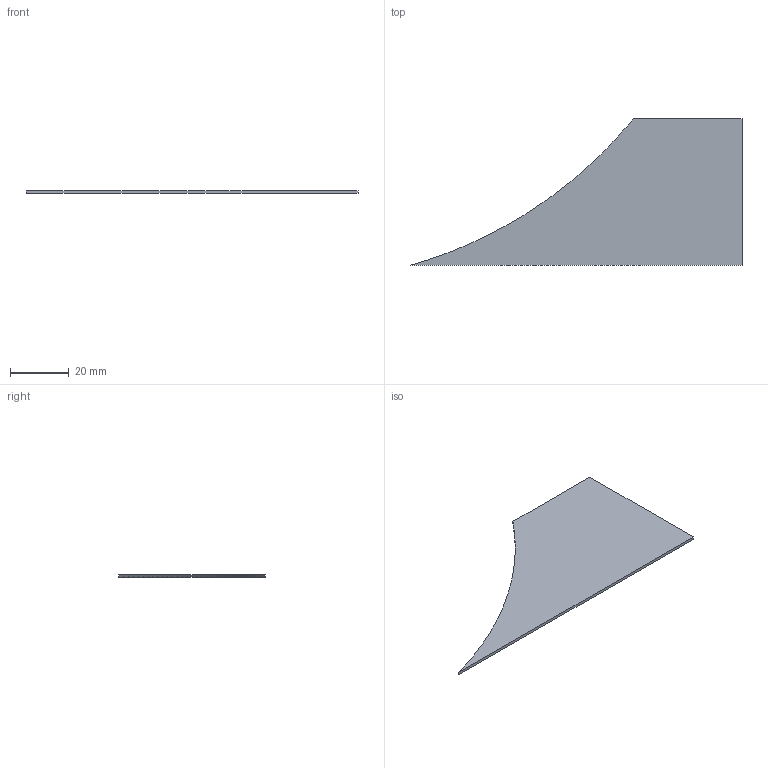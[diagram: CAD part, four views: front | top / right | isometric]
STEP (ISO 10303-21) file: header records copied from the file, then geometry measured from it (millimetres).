
FILE_DESCRIPTION(('Open CASCADE Model'),'2;1');
FILE_NAME('Open CASCADE Shape Model','2026-10-04T02:31:35',('Author'),( 'Open CASCADE'),'Open CASCADE STEP processor 8.0','Open CASCADE 8.0' ,'Unknown');
FILE_SCHEMA(('AUTOMOTIVE_DESIGN { 1 0 10303 214 1 1 1 1 }'));
Length unit declared in the file: millimetre
Products named in the file (1): Open CASCADE STEP translator 8.0 39
Bounding box: 113.31 x 50 x 1 mm (x, y, z)
Volume: 3331.4 mm3; surface area: 6955.9 mm2
Topology: 1 solids, 1 shells, 35 faces, 99 edges, 66 vertices
Faces by surface type: plane 35
Entity records: 2410 total; most frequent: CARTESIAN_POINT 399, DIRECTION 369, LINE 297, VECTOR 297, ORIENTED_EDGE 198, PCURVE 198, DEFINITIONAL_REPRESENTATION 198, EDGE_CURVE 99
